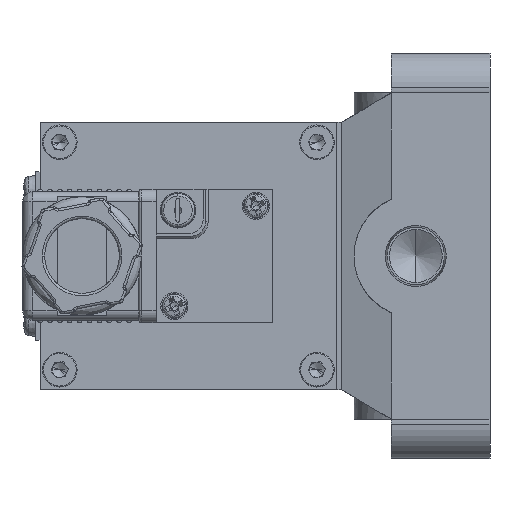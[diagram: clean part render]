
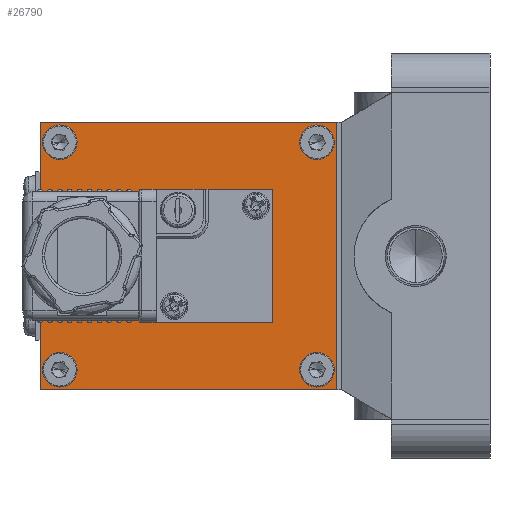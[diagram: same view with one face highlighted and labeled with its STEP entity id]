
A CAD part, left-side view. The second image highlights one B-rep face of the part: STEP entity #26790.
In plain terms, the highlighted planar face has unit normal (-1, 0, 0) as drawn and (1, 0, 0) by its records, which use the part's own axes.
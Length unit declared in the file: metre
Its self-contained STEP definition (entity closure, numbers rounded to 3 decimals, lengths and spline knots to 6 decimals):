
#511 = FACE_OUTER_BOUND ( 'NONE', #23599, .T. ) ;
#815 = CARTESIAN_POINT ( 'NONE',  ( 0.051, 0.031, 0. ) ) ;
#1121 = EDGE_CURVE ( 'NONE', #30943, #15645, #23001, .T. ) ;
#1697 = ORIENTED_EDGE ( 'NONE', *, *, #15721, .T. ) ;
#2451 = CIRCLE ( 'NONE', #23386, 0.002 ) ;
#2472 = EDGE_CURVE ( 'NONE', #25386, #6331, #6833, .T. ) ;
#3509 = ORIENTED_EDGE ( 'NONE', *, *, #2472, .T. ) ;
#3537 = CARTESIAN_POINT ( 'NONE',  ( 0.051, 0.035, -0.021 ) ) ;
#3646 = ORIENTED_EDGE ( 'NONE', *, *, #4414, .T. ) ;
#3844 = ORIENTED_EDGE ( 'NONE', *, *, #25535, .T. ) ;
#3984 = ORIENTED_EDGE ( 'NONE', *, *, #13587, .T. ) ;
#4242 = CARTESIAN_POINT ( 'NONE',  ( 0.051, 0.035, -0.025 ) ) ;
#4319 = AXIS2_PLACEMENT_3D ( 'NONE', #22592, #8245, #25001 ) ;
#4414 = EDGE_CURVE ( 'NONE', #9232, #25961, #16087, .T. ) ;
#4718 = PLANE ( 'NONE',  #21995 ) ;
#4775 = DIRECTION ( 'NONE',  ( 0., -1., 0. ) ) ;
#5321 = CIRCLE ( 'NONE', #4319, 0.002 ) ;
#5960 = DIRECTION ( 'NONE',  ( -1., 0., 0. ) ) ;
#6160 = AXIS2_PLACEMENT_3D ( 'NONE', #10460, #27232, #12854 ) ;
#6259 = EDGE_CURVE ( 'NONE', #19636, #27532, #18274, .T. ) ;
#6331 = VERTEX_POINT ( 'NONE', #25407 ) ;
#6833 = LINE ( 'NONE', #12928, #25178 ) ;
#7078 = CIRCLE ( 'NONE', #30425, 0.002 ) ;
#7281 = EDGE_LOOP ( 'NONE', ( #14468, #3844 ) ) ;
#7626 = FACE_BOUND ( 'NONE', #22804, .T. ) ;
#8245 = DIRECTION ( 'NONE',  ( -1., 0., 0. ) ) ;
#9082 = CIRCLE ( 'NONE', #13391, 0.002 ) ;
#9232 = VERTEX_POINT ( 'NONE', #27160 ) ;
#9295 = CARTESIAN_POINT ( 'NONE',  ( 0.051, 0.091, -0.027 ) ) ;
#9410 = DIRECTION ( 'NONE',  ( 0., 1., 0. ) ) ;
#9848 = CARTESIAN_POINT ( 'NONE',  ( 0.051, 0.061, 0.027 ) ) ;
#10413 = CARTESIAN_POINT ( 'NONE',  ( 0.051, 0.035, 0.025 ) ) ;
#10460 = CARTESIAN_POINT ( 'NONE',  ( 0.051, 0.087, 0.023 ) ) ;
#10633 = CARTESIAN_POINT ( 'NONE',  ( 0.051, 0.031, 0.027 ) ) ;
#10849 = DIRECTION ( 'NONE',  ( 0., 0., 1. ) ) ;
#11047 = ORIENTED_EDGE ( 'NONE', *, *, #1121, .T. ) ;
#11488 = CARTESIAN_POINT ( 'NONE',  ( 0.051, 0.031, -0.027 ) ) ;
#11513 = CARTESIAN_POINT ( 'NONE',  ( 0.051, 0.087, 0.025 ) ) ;
#11538 = DIRECTION ( 'NONE',  ( -1., 0., 0. ) ) ;
#11831 = EDGE_LOOP ( 'NONE', ( #21910, #19983 ) ) ;
#12476 = VERTEX_POINT ( 'NONE', #4242 ) ;
#12534 = CARTESIAN_POINT ( 'NONE',  ( 0.051, 0.035, -0.023 ) ) ;
#12854 = DIRECTION ( 'NONE',  ( 0., 0., -1. ) ) ;
#12928 = CARTESIAN_POINT ( 'NONE',  ( 0.051, 0.091, 0. ) ) ;
#13068 = DIRECTION ( 'NONE',  ( -1., 0., 0. ) ) ;
#13092 = CARTESIAN_POINT ( 'NONE',  ( 0.051, 0.087, -0.025 ) ) ;
#13118 = ORIENTED_EDGE ( 'NONE', *, *, #29300, .T. ) ;
#13229 = FACE_BOUND ( 'NONE', #11831, .T. ) ;
#13247 = CARTESIAN_POINT ( 'NONE',  ( 0.051, 0.035, 0.021 ) ) ;
#13340 = CARTESIAN_POINT ( 'NONE',  ( 0.051, 0.087, -0.023 ) ) ;
#13391 = AXIS2_PLACEMENT_3D ( 'NONE', #27436, #13068, #29851 ) ;
#13466 = CARTESIAN_POINT ( 'NONE',  ( 0.051, 0.087, -0.023 ) ) ;
#13587 = EDGE_CURVE ( 'NONE', #26976, #16188, #5321, .T. ) ;
#14242 = LINE ( 'NONE', #21378, #26268 ) ;
#14468 = ORIENTED_EDGE ( 'NONE', *, *, #18465, .T. ) ;
#14956 = DIRECTION ( 'NONE',  ( 0., 0., -1. ) ) ;
#15645 = VERTEX_POINT ( 'NONE', #11488 ) ;
#15721 = EDGE_CURVE ( 'NONE', #15645, #25386, #14242, .T. ) ;
#15732 = DIRECTION ( 'NONE',  ( 0., 0., -1. ) ) ;
#15855 = DIRECTION ( 'NONE',  ( 0., 0., -1. ) ) ;
#16087 = CIRCLE ( 'NONE', #6160, 0.002 ) ;
#16188 = VERTEX_POINT ( 'NONE', #13247 ) ;
#16245 = EDGE_CURVE ( 'NONE', #27532, #19636, #17227, .T. ) ;
#16455 = LINE ( 'NONE', #9848, #22853 ) ;
#16590 = CARTESIAN_POINT ( 'NONE',  ( 0.051, 0.031, 0.027 ) ) ;
#17037 = EDGE_CURVE ( 'NONE', #6331, #30943, #16455, .T. ) ;
#17227 = CIRCLE ( 'NONE', #22089, 0.002 ) ;
#18274 = CIRCLE ( 'NONE', #20230, 0.002 ) ;
#18465 = EDGE_CURVE ( 'NONE', #12476, #29785, #29901, .T. ) ;
#18574 = CARTESIAN_POINT ( 'NONE',  ( 0.051, 0.087, -0.021 ) ) ;
#18868 = FACE_BOUND ( 'NONE', #23750, .T. ) ;
#19368 = DIRECTION ( 'NONE',  ( 1., 0., 0. ) ) ;
#19636 = VERTEX_POINT ( 'NONE', #18574 ) ;
#19983 = ORIENTED_EDGE ( 'NONE', *, *, #6259, .F. ) ;
#20230 = AXIS2_PLACEMENT_3D ( 'NONE', #13340, #30098, #15732 ) ;
#20283 = CARTESIAN_POINT ( 'NONE',  ( 0.051, 0.035, 0.023 ) ) ;
#20534 = AXIS2_PLACEMENT_3D ( 'NONE', #12534, #29330, #14956 ) ;
#21378 = CARTESIAN_POINT ( 'NONE',  ( 0.051, 0.061, -0.027 ) ) ;
#21910 = ORIENTED_EDGE ( 'NONE', *, *, #16245, .F. ) ;
#21995 = AXIS2_PLACEMENT_3D ( 'NONE', #16590, #19368, #23861 ) ;
#22089 = AXIS2_PLACEMENT_3D ( 'NONE', #13466, #30240, #15855 ) ;
#22243 = VECTOR ( 'NONE', #22286, 1. ) ;
#22286 = DIRECTION ( 'NONE',  ( 0., 0., -1. ) ) ;
#22369 = EDGE_CURVE ( 'NONE', #16188, #26976, #7078, .T. ) ;
#22592 = CARTESIAN_POINT ( 'NONE',  ( 0.051, 0.035, 0.023 ) ) ;
#22723 = DIRECTION ( 'NONE',  ( 0., 0., -1. ) ) ;
#22804 = EDGE_LOOP ( 'NONE', ( #3646, #13118 ) ) ;
#22853 = VECTOR ( 'NONE', #4775, 1. ) ;
#23001 = LINE ( 'NONE', #815, #22243 ) ;
#23386 = AXIS2_PLACEMENT_3D ( 'NONE', #25909, #11538, #28330 ) ;
#23599 = EDGE_LOOP ( 'NONE', ( #11047, #1697, #3509, #29293 ) ) ;
#23750 = EDGE_LOOP ( 'NONE', ( #29628, #3984 ) ) ;
#23861 = DIRECTION ( 'NONE',  ( 0., 0., -1. ) ) ;
#25001 = DIRECTION ( 'NONE',  ( 0., 0., -1. ) ) ;
#25178 = VECTOR ( 'NONE', #10849, 1. ) ;
#25239 = FACE_BOUND ( 'NONE', #7281, .T. ) ;
#25386 = VERTEX_POINT ( 'NONE', #9295 ) ;
#25407 = CARTESIAN_POINT ( 'NONE',  ( 0.051, 0.091, 0.027 ) ) ;
#25535 = EDGE_CURVE ( 'NONE', #29785, #12476, #2451, .T. ) ;
#25909 = CARTESIAN_POINT ( 'NONE',  ( 0.051, 0.035, -0.023 ) ) ;
#25961 = VERTEX_POINT ( 'NONE', #11513 ) ;
#26268 = VECTOR ( 'NONE', #9410, 1. ) ;
#26790 = ADVANCED_FACE ( 'NONE', ( #18868, #25239, #7626, #13229, #511 ), #4718, .T. ) ;
#26976 = VERTEX_POINT ( 'NONE', #10413 ) ;
#27160 = CARTESIAN_POINT ( 'NONE',  ( 0.051, 0.087, 0.021 ) ) ;
#27232 = DIRECTION ( 'NONE',  ( -1., 0., 0. ) ) ;
#27436 = CARTESIAN_POINT ( 'NONE',  ( 0.051, 0.087, 0.023 ) ) ;
#27532 = VERTEX_POINT ( 'NONE', #13092 ) ;
#28330 = DIRECTION ( 'NONE',  ( 0., 0., -1. ) ) ;
#29293 = ORIENTED_EDGE ( 'NONE', *, *, #17037, .T. ) ;
#29300 = EDGE_CURVE ( 'NONE', #25961, #9232, #9082, .T. ) ;
#29330 = DIRECTION ( 'NONE',  ( -1., 0., 0. ) ) ;
#29628 = ORIENTED_EDGE ( 'NONE', *, *, #22369, .T. ) ;
#29785 = VERTEX_POINT ( 'NONE', #3537 ) ;
#29851 = DIRECTION ( 'NONE',  ( 0., 0., -1. ) ) ;
#29901 = CIRCLE ( 'NONE', #20534, 0.002 ) ;
#30098 = DIRECTION ( 'NONE',  ( 1., 0., 0. ) ) ;
#30240 = DIRECTION ( 'NONE',  ( 1., 0., 0. ) ) ;
#30425 = AXIS2_PLACEMENT_3D ( 'NONE', #20283, #5960, #22723 ) ;
#30943 = VERTEX_POINT ( 'NONE', #10633 ) ;
